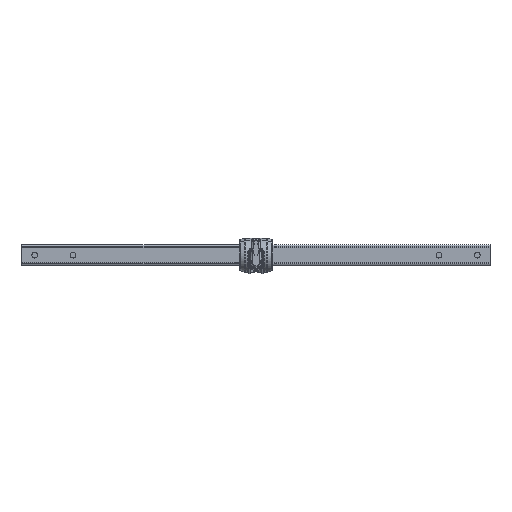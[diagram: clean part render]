
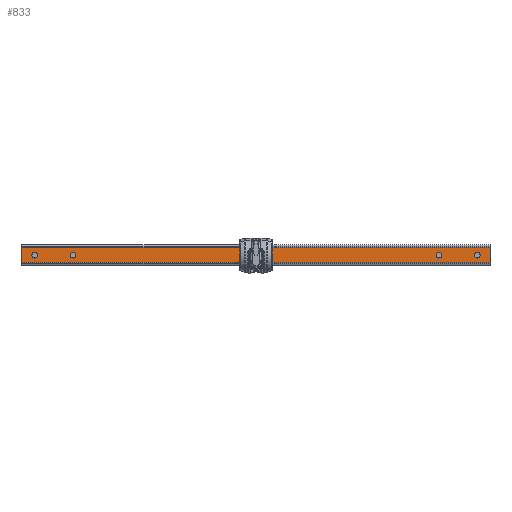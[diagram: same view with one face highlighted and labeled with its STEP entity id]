
A CAD part, front view. The second image highlights one B-rep face of the part: STEP entity #833.
In plain terms, the highlighted planar face has unit normal (0, -1, 0).
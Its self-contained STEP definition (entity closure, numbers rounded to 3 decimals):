
#225=DIRECTION('',(0.,0.,-1.));
#226=VECTOR('',#225,20.);
#227=CARTESIAN_POINT('',(-275.,-12.5,10.));
#228=LINE('',#227,#226);
#276=DIRECTION('',(0.,0.,-1.));
#277=VECTOR('',#276,20.);
#278=CARTESIAN_POINT('',(275.,-12.5,10.));
#279=LINE('',#278,#277);
#322=DIRECTION('',(-1.,0.,0.));
#323=VECTOR('',#322,550.);
#324=CARTESIAN_POINT('',(275.,-12.5,-10.));
#325=LINE('',#324,#323);
#326=DIRECTION('',(-1.,0.,0.));
#327=VECTOR('',#326,550.);
#328=CARTESIAN_POINT('',(275.,-12.5,10.));
#329=LINE('',#328,#327);
#330=CARTESIAN_POINT('',(260.,-12.5,0.));
#331=DIRECTION('',(0.,-1.,0.));
#332=DIRECTION('',(-1.,0.,0.));
#333=AXIS2_PLACEMENT_3D('',#330,#331,#332);
#335=CARTESIAN_POINT('',(260.,-12.5,0.));
#336=DIRECTION('',(0.,-1.,0.));
#337=DIRECTION('',(1.,0.,0.));
#338=AXIS2_PLACEMENT_3D('',#335,#336,#337);
#340=CARTESIAN_POINT('',(215.,-12.5,0.));
#341=DIRECTION('',(0.,-1.,0.));
#342=DIRECTION('',(-1.,0.,0.));
#343=AXIS2_PLACEMENT_3D('',#340,#341,#342);
#345=CARTESIAN_POINT('',(215.,-12.5,0.));
#346=DIRECTION('',(0.,-1.,0.));
#347=DIRECTION('',(1.,0.,0.));
#348=AXIS2_PLACEMENT_3D('',#345,#346,#347);
#350=CARTESIAN_POINT('',(0.,-12.5,0.));
#351=DIRECTION('',(0.,-1.,0.));
#352=DIRECTION('',(-1.,0.,0.));
#353=AXIS2_PLACEMENT_3D('',#350,#351,#352);
#355=CARTESIAN_POINT('',(0.,-12.5,0.));
#356=DIRECTION('',(0.,-1.,0.));
#357=DIRECTION('',(1.,0.,0.));
#358=AXIS2_PLACEMENT_3D('',#355,#356,#357);
#360=CARTESIAN_POINT('',(-260.,-12.5,0.));
#361=DIRECTION('',(0.,1.,0.));
#362=DIRECTION('',(1.,0.,0.));
#363=AXIS2_PLACEMENT_3D('',#360,#361,#362);
#365=CARTESIAN_POINT('',(-260.,-12.5,0.));
#366=DIRECTION('',(0.,1.,0.));
#367=DIRECTION('',(-1.,0.,0.));
#368=AXIS2_PLACEMENT_3D('',#365,#366,#367);
#370=CARTESIAN_POINT('',(-215.,-12.5,0.));
#371=DIRECTION('',(0.,1.,0.));
#372=DIRECTION('',(1.,0.,0.));
#373=AXIS2_PLACEMENT_3D('',#370,#371,#372);
#375=CARTESIAN_POINT('',(-215.,-12.5,0.));
#376=DIRECTION('',(0.,1.,0.));
#377=DIRECTION('',(-1.,0.,0.));
#378=AXIS2_PLACEMENT_3D('',#375,#376,#377);
#591=CARTESIAN_POINT('',(-275.,-12.5,-10.));
#593=VERTEX_POINT('',#591);
#594=CARTESIAN_POINT('',(275.,-12.5,-10.));
#595=VERTEX_POINT('',#594);
#606=CARTESIAN_POINT('',(-275.,-12.5,10.));
#608=VERTEX_POINT('',#606);
#612=CARTESIAN_POINT('',(275.,-12.5,10.));
#613=VERTEX_POINT('',#612);
#614=CARTESIAN_POINT('',(256.6,-12.5,0.));
#615=CARTESIAN_POINT('',(263.4,-12.5,0.));
#616=VERTEX_POINT('',#614);
#617=VERTEX_POINT('',#615);
#622=CARTESIAN_POINT('',(211.6,-12.5,0.));
#623=CARTESIAN_POINT('',(218.4,-12.5,0.));
#624=VERTEX_POINT('',#622);
#625=VERTEX_POINT('',#623);
#630=CARTESIAN_POINT('',(-3.4,-12.5,0.));
#631=CARTESIAN_POINT('',(3.4,-12.5,0.));
#632=VERTEX_POINT('',#630);
#633=VERTEX_POINT('',#631);
#639=CARTESIAN_POINT('',(-256.6,-12.5,0.));
#641=VERTEX_POINT('',#639);
#643=CARTESIAN_POINT('',(-263.4,-12.5,0.));
#645=VERTEX_POINT('',#643);
#647=CARTESIAN_POINT('',(-211.6,-12.5,0.));
#649=VERTEX_POINT('',#647);
#651=CARTESIAN_POINT('',(-218.4,-12.5,0.));
#653=VERTEX_POINT('',#651);
#791=CARTESIAN_POINT('',(-275.,-12.5,12.5));
#792=DIRECTION('',(0.,-1.,0.));
#793=DIRECTION('',(0.,0.,-1.));
#794=AXIS2_PLACEMENT_3D('',#791,#792,#793);
#795=PLANE('',#794);
#796=ORIENTED_EDGE('',*,*,#784,.T.);
#797=ORIENTED_EDGE('',*,*,#684,.F.);
#799=ORIENTED_EDGE('',*,*,#798,.F.);
#800=ORIENTED_EDGE('',*,*,#735,.T.);
#801=EDGE_LOOP('',(#796,#797,#799,#800));
#802=FACE_OUTER_BOUND('',#801,.F.);
#804=ORIENTED_EDGE('',*,*,#803,.T.);
#806=ORIENTED_EDGE('',*,*,#805,.T.);
#807=EDGE_LOOP('',(#804,#806));
#808=FACE_BOUND('',#807,.F.);
#810=ORIENTED_EDGE('',*,*,#809,.T.);
#812=ORIENTED_EDGE('',*,*,#811,.T.);
#813=EDGE_LOOP('',(#810,#812));
#814=FACE_BOUND('',#813,.F.);
#816=ORIENTED_EDGE('',*,*,#815,.T.);
#818=ORIENTED_EDGE('',*,*,#817,.T.);
#819=EDGE_LOOP('',(#816,#818));
#820=FACE_BOUND('',#819,.F.);
#822=ORIENTED_EDGE('',*,*,#821,.F.);
#824=ORIENTED_EDGE('',*,*,#823,.F.);
#825=EDGE_LOOP('',(#822,#824));
#826=FACE_BOUND('',#825,.F.);
#828=ORIENTED_EDGE('',*,*,#827,.F.);
#830=ORIENTED_EDGE('',*,*,#829,.F.);
#831=EDGE_LOOP('',(#828,#830));
#832=FACE_BOUND('',#831,.F.);
#334=CIRCLE('',#333,3.4);
#339=CIRCLE('',#338,3.4);
#344=CIRCLE('',#343,3.4);
#349=CIRCLE('',#348,3.4);
#354=CIRCLE('',#353,3.4);
#359=CIRCLE('',#358,3.4);
#364=CIRCLE('',#363,3.4);
#369=CIRCLE('',#368,3.4);
#374=CIRCLE('',#373,3.4);
#379=CIRCLE('',#378,3.4);
#684=EDGE_CURVE('',#608,#593,#228,.T.);
#735=EDGE_CURVE('',#613,#595,#279,.T.);
#784=EDGE_CURVE('',#595,#593,#325,.T.);
#798=EDGE_CURVE('',#613,#608,#329,.T.);
#803=EDGE_CURVE('',#616,#617,#334,.T.);
#805=EDGE_CURVE('',#617,#616,#339,.T.);
#809=EDGE_CURVE('',#624,#625,#344,.T.);
#811=EDGE_CURVE('',#625,#624,#349,.T.);
#815=EDGE_CURVE('',#632,#633,#354,.T.);
#817=EDGE_CURVE('',#633,#632,#359,.T.);
#821=EDGE_CURVE('',#641,#645,#364,.T.);
#823=EDGE_CURVE('',#645,#641,#369,.T.);
#827=EDGE_CURVE('',#649,#653,#374,.T.);
#829=EDGE_CURVE('',#653,#649,#379,.T.);
#833=ADVANCED_FACE('',(#802,#808,#814,#820,#826,#832),#795,.T.);
